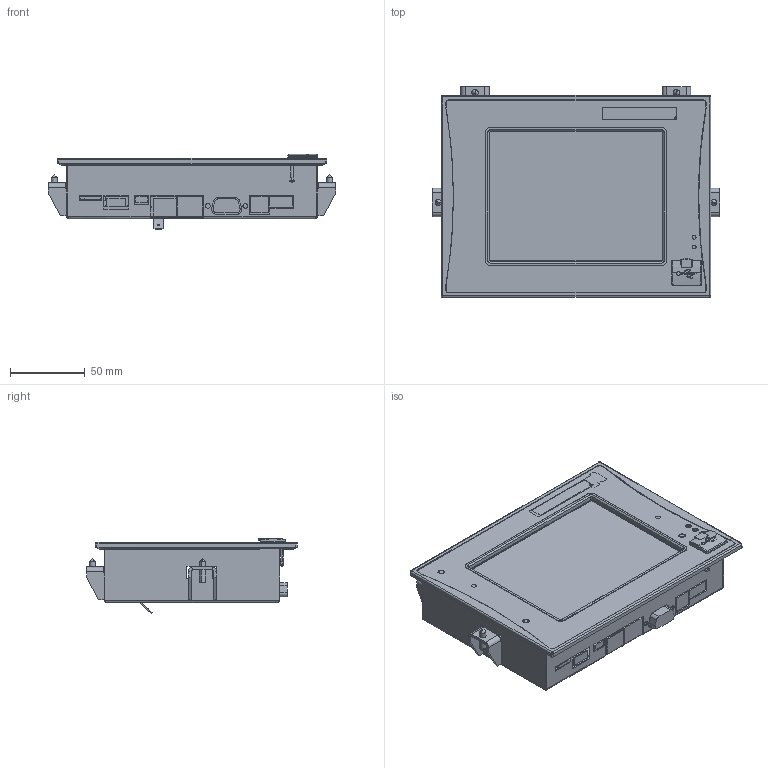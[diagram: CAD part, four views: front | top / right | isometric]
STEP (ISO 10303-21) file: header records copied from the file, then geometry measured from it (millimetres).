
FILE_DESCRIPTION (( 'STEP AP214' ), '1' );
FILE_NAME ('ETV551 Support.STEP', '2016-04-12T07:01:24', ( 'SIGMATEK GmbH & Co KG' ), ( 'SIGMATEK GmbH & Co KG' ), 'SwSTEP 2.0', 'SolidWorks 2015', '' );
FILE_SCHEMA (( 'AUTOMOTIVE_DESIGN' ));
Length unit declared in the file: millimetre
Products named in the file (12): ---------- Display incl. Touch UMSH-8839MD-T; Folie ETV0551; Befestigungselement Terminal (kürzerer Schenkel); Gewindestift ISO 7434 - M4 x 16 - 14H - A2F; Befestigungselement Terminal 1fach (kürzerer Schenkel); ETV551 Gehäuse Support.SLDASM; Abdeckung USB 9_4_4 Griffmulde oben_mit Stiftdichtung; 91202_20110330 Support; Front ETV0551; fh_m3_10; ETV0551 Front; ETV551 Support
Assembly tree (18 placements, depth 3):
  ETV551 Support
    Front ETV0551
      ETV0551 Front
      fh_m3_10  x5
    91202_20110330 Support
    Abdeckung USB 9_4_4 Griffmulde oben_mit Stiftdichtung
    ETV551 Gehäuse Support.SLDASM
    Befestigungselement Terminal (kürzerer Schenkel)  x4
      Befestigungselement Terminal 1fach (kürzerer Schenkel)
      Gewindestift ISO 7434 - M4 x 16 - 14H - A2F
    Folie ETV0551
    ---------- Display incl. Touch UMSH-8839MD-T
Bounding box: 192 x 141 x 50.56 mm (x, y, z)
Volume: 227806.7 mm3; surface area: 212121.1 mm2
Topology: 20 solids, 20 shells, 1320 faces, 3406 edges, 2134 vertices
Faces by surface type: plane 770, cylinder 309, bspline 99, cone 91, torus 29, sphere 22
Entity records: 35917 total; most frequent: CARTESIAN_POINT 8825, ORIENTED_EDGE 5400, DIRECTION 4989, EDGE_CURVE 2700, VECTOR 1879, LINE 1879, VERTEX_POINT 1714, AXIS2_PLACEMENT_3D 1555
